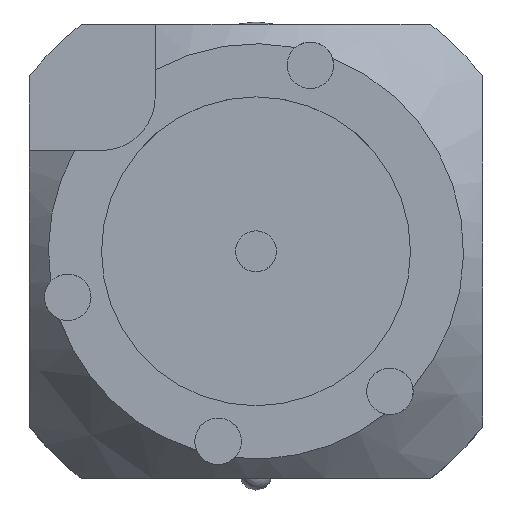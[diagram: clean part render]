
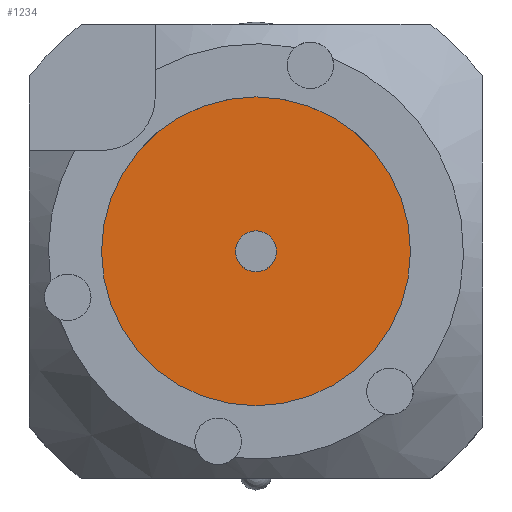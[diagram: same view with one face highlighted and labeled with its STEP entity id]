
A CAD part, top view. The second image highlights one B-rep face of the part: STEP entity #1234.
In plain terms, the highlighted planar face has unit normal (0, 0, 1).
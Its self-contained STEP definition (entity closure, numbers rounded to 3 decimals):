
#790=FACE_BOUND('',#1482,.T.);
#791=FACE_BOUND('',#1483,.T.);
#1234=ADVANCED_FACE('',(#790,#791),#1306,.F.);
#1306=PLANE('',#2892);
#1482=EDGE_LOOP('',(#2019));
#1483=EDGE_LOOP('',(#2020));
#2019=ORIENTED_EDGE('',*,*,#2656,.F.);
#2020=ORIENTED_EDGE('',*,*,#2657,.F.);
#2364=VERTEX_POINT('',#4349);
#2365=VERTEX_POINT('',#4352);
#2656=EDGE_CURVE('',#2364,#2364,#2760,.T.);
#2657=EDGE_CURVE('',#2365,#2365,#2761,.T.);
#2760=CIRCLE('',#2888,2.75);
#2761=CIRCLE('',#2890,20.76);
#2888=AXIS2_PLACEMENT_3D('',#4348,#3253,#3254);
#2890=AXIS2_PLACEMENT_3D('',#4351,#3257,#3258);
#2892=AXIS2_PLACEMENT_3D('',#4354,#3261,#3262);
#3253=DIRECTION('',(0.,0.,1.));
#3254=DIRECTION('',(-1.,0.,0.));
#3257=DIRECTION('',(0.,0.,-1.));
#3258=DIRECTION('',(1.,0.,0.));
#3261=DIRECTION('',(0.,0.,-1.));
#3262=DIRECTION('',(1.,0.,0.));
#4348=CARTESIAN_POINT('',(0.,0.,0.));
#4349=CARTESIAN_POINT('',(-2.75,0.,0.));
#4351=CARTESIAN_POINT('',(0.,0.,0.));
#4352=CARTESIAN_POINT('',(20.76,0.,0.));
#4354=CARTESIAN_POINT('',(0.,0.,0.));
